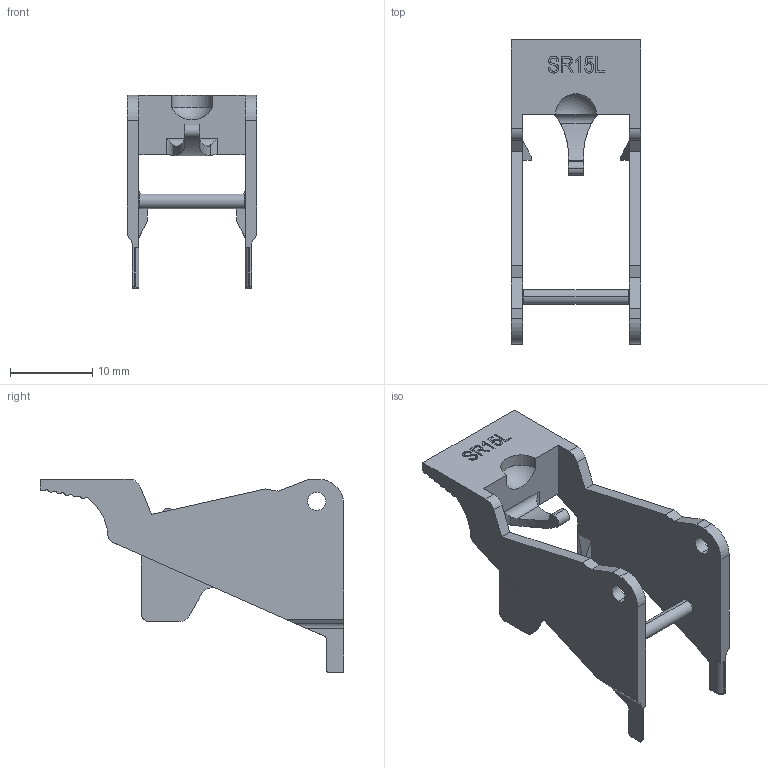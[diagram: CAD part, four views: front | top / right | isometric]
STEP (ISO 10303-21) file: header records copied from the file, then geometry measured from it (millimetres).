
FILE_DESCRIPTION (( 'STEP AP214' ), '1' );
FILE_NAME ('SR15L °â¿Û.STEP', '2021-08-23T01:40:22', ( '' ), ( '' ), 'SwSTEP 2.0', 'SolidWorks 2018', '' );
FILE_SCHEMA (( 'AUTOMOTIVE_DESIGN' ));
Length unit declared in the file: millimetre
Products named in the file (1): SR15L 售諶
Bounding box: 15.7 x 36.9 x 23.49 mm (x, y, z)
Volume: 1435.9 mm3; surface area: 2451.3 mm2
Topology: 1 solids, 1 shells, 200 faces, 556 edges, 363 vertices
Faces by surface type: plane 89, cylinder 67, bspline 35, torus 5, cone 4
Entity records: 9125 total; most frequent: CARTESIAN_POINT 3144, ORIENTED_EDGE 1110, DIRECTION 929, EDGE_CURVE 555, VERTEX_POINT 363, LINE 337, VECTOR 337, AXIS2_PLACEMENT_3D 296
